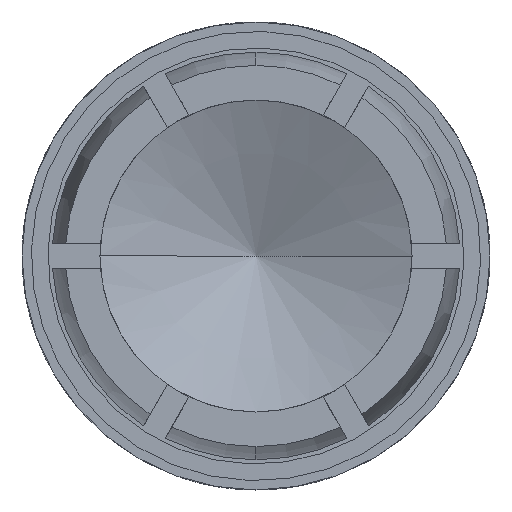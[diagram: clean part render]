
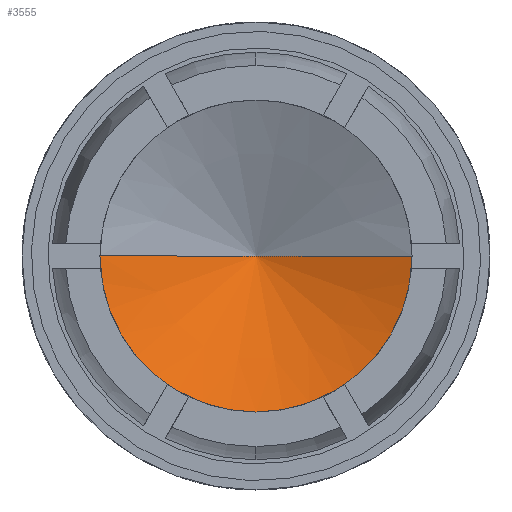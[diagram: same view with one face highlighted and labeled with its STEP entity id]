
A CAD part, left-side view. The second image highlights one B-rep face of the part: STEP entity #3555.
In plain terms, the highlighted conical face has half-angle 67.5 degrees and reference radius 2414.21 mm.
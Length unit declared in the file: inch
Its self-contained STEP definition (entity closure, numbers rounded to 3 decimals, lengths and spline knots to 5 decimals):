
#47 = DIRECTION ( 'NONE',  ( -0.383, -0.924, 0. ) ) ;
#463 = LINE ( 'NONE', #3642, #8692 ) ;
#2168 = EDGE_CURVE ( 'NONE', #7532, #2309, #5026, .T. ) ;
#2309 = VERTEX_POINT ( 'NONE', #7853 ) ;
#2370 = DIRECTION ( 'NONE',  ( 1., 0., 0. ) ) ;
#3189 = VECTOR ( 'NONE', #47, 39.37008 ) ;
#3324 = AXIS2_PLACEMENT_3D ( 'NONE', #7029, #2370, #7787 ) ;
#3340 = DIRECTION ( 'NONE',  ( 0., -1., 0. ) ) ;
#3555 = ADVANCED_FACE ( 'NONE', ( #7015 ), #6769, .F. ) ;
#3642 = CARTESIAN_POINT ( 'NONE',  ( -0.03217, 0., 0. ) ) ;
#4110 = DIRECTION ( 'NONE',  ( -1., 0., 0. ) ) ;
#4278 = EDGE_LOOP ( 'NONE', ( #5880, #9441, #5151 ) ) ;
#4430 = DIRECTION ( 'NONE',  ( -0.383, 0.924, 0. ) ) ;
#4631 = CARTESIAN_POINT ( 'NONE',  ( -0.03217, 0., 0. ) ) ;
#5026 = LINE ( 'NONE', #4631, #3189 ) ;
#5151 = ORIENTED_EDGE ( 'NONE', *, *, #6893, .F. ) ;
#5731 = VERTEX_POINT ( 'NONE', #9588 ) ;
#5872 = EDGE_CURVE ( 'NONE', #7532, #5731, #463, .T. ) ;
#5880 = ORIENTED_EDGE ( 'NONE', *, *, #2168, .F. ) ;
#6769 = CONICAL_SURFACE ( 'NONE', #8804, 95.04778, 1.178 ) ;
#6824 = CIRCLE ( 'NONE', #3324, 0.375 ) ;
#6893 = EDGE_CURVE ( 'NONE', #2309, #5731, #6824, .T. ) ;
#7015 = FACE_OUTER_BOUND ( 'NONE', #4278, .T. ) ;
#7029 = CARTESIAN_POINT ( 'NONE',  ( -0.1875, 0., 0. ) ) ;
#7231 = CARTESIAN_POINT ( 'NONE',  ( -39.40225, 0., 0. ) ) ;
#7532 = VERTEX_POINT ( 'NONE', #8374 ) ;
#7787 = DIRECTION ( 'NONE',  ( 0., 1., 0. ) ) ;
#7853 = CARTESIAN_POINT ( 'NONE',  ( -0.1875, -0.375, 0. ) ) ;
#8374 = CARTESIAN_POINT ( 'NONE',  ( -0.03217, 0., 0. ) ) ;
#8692 = VECTOR ( 'NONE', #4430, 39.37008 ) ;
#8804 = AXIS2_PLACEMENT_3D ( 'NONE', #7231, #4110, #3340 ) ;
#9441 = ORIENTED_EDGE ( 'NONE', *, *, #5872, .T. ) ;
#9588 = CARTESIAN_POINT ( 'NONE',  ( -0.1875, 0.375, 0. ) ) ;
